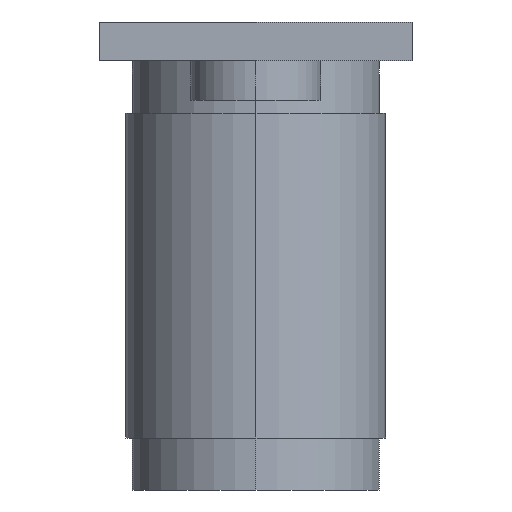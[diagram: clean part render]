
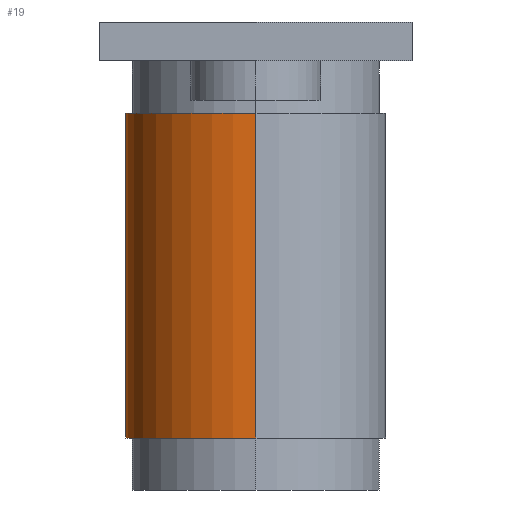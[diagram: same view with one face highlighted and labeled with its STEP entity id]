
A CAD part, left-side view. The second image highlights one B-rep face of the part: STEP entity #19.
In plain terms, the highlighted cylindrical face has radius 10 mm (diameter 20 mm), a partial arc.
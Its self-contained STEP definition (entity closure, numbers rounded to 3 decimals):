
#15 = AXIS2_PLACEMENT_3D ( 'NONE', #345, #479, #286 ) ;
#19 = ADVANCED_FACE ( 'NONE', ( #630 ), #277, .T. ) ;
#47 = EDGE_CURVE ( 'NONE', #475, #310, #119, .T. ) ;
#61 = VERTEX_POINT ( 'NONE', #476 ) ;
#78 = VECTOR ( 'NONE', #567, 1000. ) ;
#99 = LINE ( 'NONE', #616, #78 ) ;
#105 = DIRECTION ( 'NONE',  ( 1., 0., 0. ) ) ;
#107 = AXIS2_PLACEMENT_3D ( 'NONE', #637, #289, #555 ) ;
#119 = CIRCLE ( 'NONE', #107, 10. ) ;
#160 = ORIENTED_EDGE ( 'NONE', *, *, #170, .T. ) ;
#166 = ORIENTED_EDGE ( 'NONE', *, *, #767, .F. ) ;
#170 = EDGE_CURVE ( 'NONE', #61, #310, #775, .T. ) ;
#195 = EDGE_CURVE ( 'NONE', #502, #61, #541, .T. ) ;
#207 = CARTESIAN_POINT ( 'NONE',  ( 10., -8.783, 4.623 ) ) ;
#277 = CYLINDRICAL_SURFACE ( 'NONE', #15, 10. ) ;
#278 = CARTESIAN_POINT ( 'NONE',  ( 10., -8.783, 29.623 ) ) ;
#286 = DIRECTION ( 'NONE',  ( 1., 0., 0. ) ) ;
#289 = DIRECTION ( 'NONE',  ( 0., 0., 1. ) ) ;
#298 = DIRECTION ( 'NONE',  ( 0., 0., 1. ) ) ;
#310 = VERTEX_POINT ( 'NONE', #808 ) ;
#345 = CARTESIAN_POINT ( 'NONE',  ( 0., -8.783, 33.623 ) ) ;
#357 = CARTESIAN_POINT ( 'NONE',  ( -10., -8.783, 33.623 ) ) ;
#365 = VECTOR ( 'NONE', #298, 1000. ) ;
#428 = AXIS2_PLACEMENT_3D ( 'NONE', #827, #635, #105 ) ;
#470 = EDGE_LOOP ( 'NONE', ( #675, #160, #602, #166 ) ) ;
#475 = VERTEX_POINT ( 'NONE', #278 ) ;
#476 = CARTESIAN_POINT ( 'NONE',  ( -10., -8.783, 4.623 ) ) ;
#479 = DIRECTION ( 'NONE',  ( 0., 0., 1. ) ) ;
#502 = VERTEX_POINT ( 'NONE', #207 ) ;
#541 = CIRCLE ( 'NONE', #428, 10. ) ;
#555 = DIRECTION ( 'NONE',  ( 1., 0., 0. ) ) ;
#567 = DIRECTION ( 'NONE',  ( 0., 0., 1. ) ) ;
#602 = ORIENTED_EDGE ( 'NONE', *, *, #47, .F. ) ;
#616 = CARTESIAN_POINT ( 'NONE',  ( 10., -8.783, 33.623 ) ) ;
#630 = FACE_OUTER_BOUND ( 'NONE', #470, .T. ) ;
#635 = DIRECTION ( 'NONE',  ( 0., 0., 1. ) ) ;
#637 = CARTESIAN_POINT ( 'NONE',  ( 0., -8.783, 29.623 ) ) ;
#675 = ORIENTED_EDGE ( 'NONE', *, *, #195, .T. ) ;
#767 = EDGE_CURVE ( 'NONE', #502, #475, #99, .T. ) ;
#775 = LINE ( 'NONE', #357, #365 ) ;
#808 = CARTESIAN_POINT ( 'NONE',  ( -10., -8.783, 29.623 ) ) ;
#827 = CARTESIAN_POINT ( 'NONE',  ( 0., -8.783, 4.623 ) ) ;
